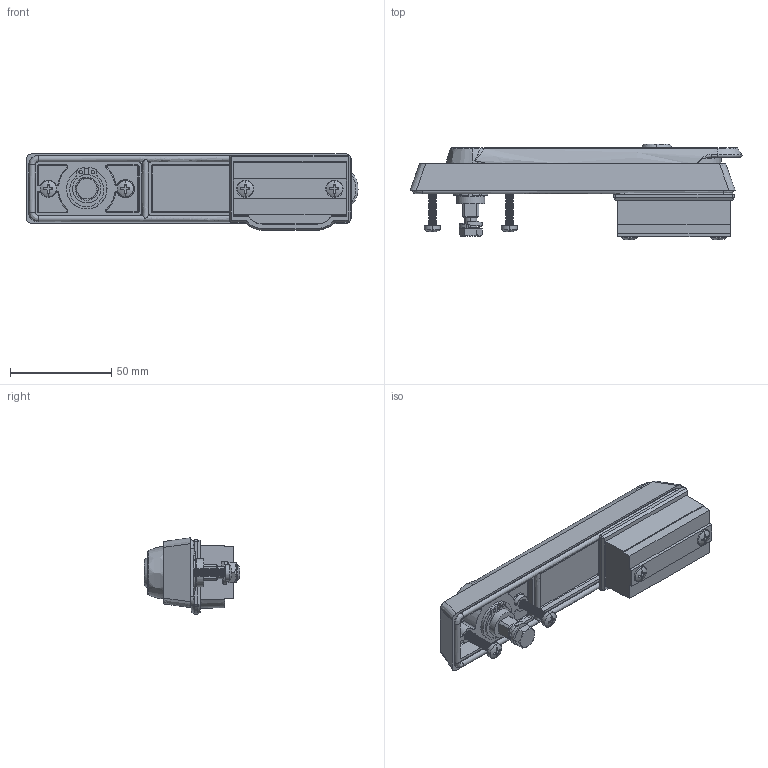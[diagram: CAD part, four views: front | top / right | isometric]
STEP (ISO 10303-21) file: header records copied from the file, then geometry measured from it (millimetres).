
FILE_DESCRIPTION (( 'STEP AP214' ), '1' );
FILE_NAME ('RS173.001.STEP', '2016-08-25T10:03:41', ( '' ), ( '' ), 'SwSTEP 2.0', 'SolidWorks 2015', '' );
FILE_SCHEMA (( 'AUTOMOTIVE_DESIGN' ));
Length unit declared in the file: millimetre
Products named in the file (18): DIN 7985_M4x20_79852   4 20-mattssons; DIN 7985_M4x25_79852   4 25-mattssons; DIN471_A14; DIN3771_10,5x2; RS173.001.10_A.1; RS173.001.10.02; RS173.001.10.01_GAMET; RS173.001.07; RS173.001.06; RS173.001.03_A; RS173.001.02_B; RS173.001.01; RS173.001; RS173.001.08_A; RS173.001.05_A; DIN 965_M3x10_09652   5 10-mattssons; DIN 127_M6 - A2; DIN 931_M6x16 - A2
Assembly tree (19 placements, depth 3):
  RS173.001
    RS173.001.01
    RS173.001.02_B
    RS173.001.03_A
    RS173.001.06
    RS173.001.07
    RS173.001.10_A.1
      RS173.001.10.01_GAMET
      RS173.001.10.02
    DIN3771_10,5x2
    DIN471_A14
    DIN 7985_M4x25_79852   4 25-mattssons  x2
    DIN 7985_M4x20_79852   4 20-mattssons  x2
    DIN 931_M6x16 - A2
    DIN 127_M6 - A2
    DIN 965_M3x10_09652   5 10-mattssons
    RS173.001.05_A
    RS173.001.08_A
Bounding box: 163.86 x 47.35 x 37.75 mm (x, y, z)
Volume: 92538.8 mm3; surface area: 64288.9 mm2
Topology: 18 solids, 18 shells, 2367 faces, 5814 edges, 3491 vertices
Faces by surface type: cone 616, torus 606, bspline 423, cylinder 382, plane 310, sphere 30
Entity records: 86152 total; most frequent: CARTESIAN_POINT 48501, ORIENTED_EDGE 8242, DIRECTION 7223, EDGE_CURVE 4121, AXIS2_PLACEMENT_3D 3021, VERTEX_POINT 2501, CIRCLE 1750, EDGE_LOOP 1724
